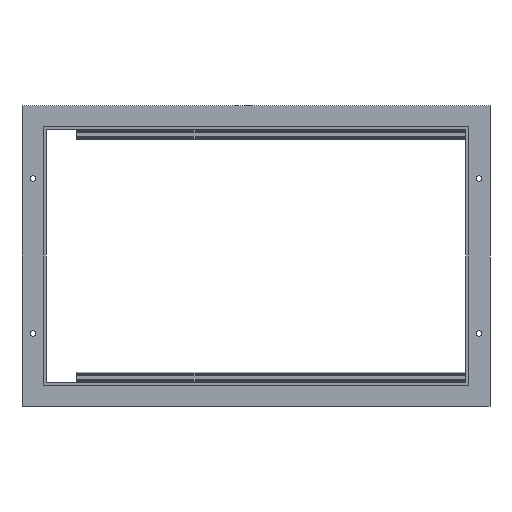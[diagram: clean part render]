
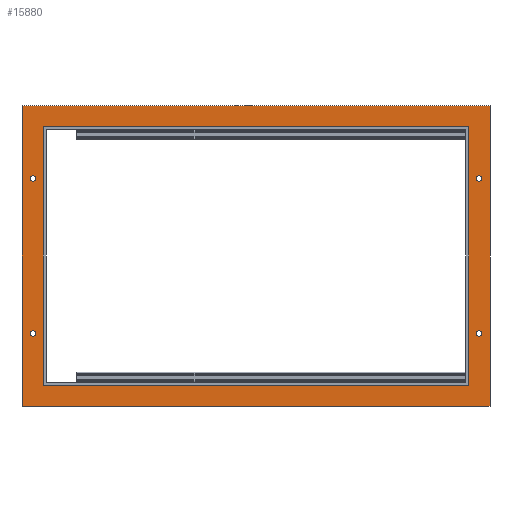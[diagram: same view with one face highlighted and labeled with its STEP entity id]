
A CAD part, front view. The second image highlights one B-rep face of the part: STEP entity #15880.
In plain terms, the highlighted planar face has unit normal (0, -1, 0).
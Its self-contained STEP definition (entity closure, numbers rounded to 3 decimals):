
#111 = VECTOR ( 'NONE', #6372, 1000. ) ;
#283 = EDGE_CURVE ( 'NONE', #23192, #28691, #33240, .T. ) ;
#460 = CARTESIAN_POINT ( 'NONE',  ( 131.158, 341., 453.942 ) ) ;
#687 = CARTESIAN_POINT ( 'NONE',  ( 148.158, 341., 368.942 ) ) ;
#940 = VERTEX_POINT ( 'NONE', #27156 ) ;
#943 = AXIS2_PLACEMENT_3D ( 'NONE', #12843, #31678, #15562 ) ;
#976 = CARTESIAN_POINT ( 'NONE',  ( 883.158, 341., 333.942 ) ) ;
#1787 = CARTESIAN_POINT ( 'NONE',  ( 869.658, 341., 453.942 ) ) ;
#2073 = AXIS2_PLACEMENT_3D ( 'NONE', #15872, #34697, #18579 ) ;
#2101 = DIRECTION ( 'NONE',  ( 0., 0., -1. ) ) ;
#2311 = ORIENTED_EDGE ( 'NONE', *, *, #12689, .T. ) ;
#2703 = EDGE_LOOP ( 'NONE', ( #26471, #31050 ) ) ;
#2706 = CARTESIAN_POINT ( 'NONE',  ( 860.658, 341., 453.942 ) ) ;
#2723 = EDGE_CURVE ( 'NONE', #21518, #940, #18516, .T. ) ;
#2861 = CARTESIAN_POINT ( 'NONE',  ( 148.158, 341., 793.942 ) ) ;
#2922 = CIRCLE ( 'NONE', #24291, 4.5 ) ;
#3026 = ORIENTED_EDGE ( 'NONE', *, *, #8979, .T. ) ;
#3075 = VERTEX_POINT ( 'NONE', #21180 ) ;
#3107 = VECTOR ( 'NONE', #27043, 1000. ) ;
#3177 = DIRECTION ( 'NONE',  ( 0., 0., -1. ) ) ;
#3609 = ORIENTED_EDGE ( 'NONE', *, *, #25058, .F. ) ;
#3890 = ORIENTED_EDGE ( 'NONE', *, *, #16558, .F. ) ;
#4240 = ORIENTED_EDGE ( 'NONE', *, *, #11143, .T. ) ;
#4626 = ORIENTED_EDGE ( 'NONE', *, *, #25682, .F. ) ;
#4665 = VECTOR ( 'NONE', #21620, 1000. ) ;
#4883 = FACE_BOUND ( 'NONE', #18299, .T. ) ;
#5195 = PLANE ( 'NONE',  #17812 ) ;
#5244 = VECTOR ( 'NONE', #5556, 1000. ) ;
#5556 = DIRECTION ( 'NONE',  ( 0., 0., -1. ) ) ;
#5578 = VERTEX_POINT ( 'NONE', #9997 ) ;
#5667 = CARTESIAN_POINT ( 'NONE',  ( 0.021, 341., 828.942 ) ) ;
#5741 = FACE_BOUND ( 'NONE', #9220, .T. ) ;
#6372 = DIRECTION ( 'NONE',  ( 0., 0., 1. ) ) ;
#7115 = ORIENTED_EDGE ( 'NONE', *, *, #23008, .T. ) ;
#7251 = LINE ( 'NONE', #976, #111 ) ;
#7431 = VECTOR ( 'NONE', #8381, 1000. ) ;
#8031 = DIRECTION ( 'NONE',  ( 0., -1., 0. ) ) ;
#8040 = CIRCLE ( 'NONE', #943, 4.5 ) ;
#8381 = DIRECTION ( 'NONE',  ( 1., 0., 0. ) ) ;
#8620 = EDGE_CURVE ( 'NONE', #27589, #28680, #19036, .T. ) ;
#8979 = EDGE_CURVE ( 'NONE', #20185, #10139, #28641, .T. ) ;
#9220 = EDGE_LOOP ( 'NONE', ( #2311, #3026 ) ) ;
#9786 = AXIS2_PLACEMENT_3D ( 'NONE', #27032, #10901, #29710 ) ;
#9803 = EDGE_CURVE ( 'NONE', #26151, #27001, #27730, .T. ) ;
#9997 = CARTESIAN_POINT ( 'NONE',  ( 126.658, 341., 453.942 ) ) ;
#10139 = VERTEX_POINT ( 'NONE', #1787 ) ;
#10901 = DIRECTION ( 'NONE',  ( 0., 1., 0. ) ) ;
#11115 = CARTESIAN_POINT ( 'NONE',  ( 865.158, 341., 708.942 ) ) ;
#11143 = EDGE_CURVE ( 'NONE', #28680, #26881, #34820, .T. ) ;
#11906 = CIRCLE ( 'NONE', #9786, 4.5 ) ;
#11963 = FACE_BOUND ( 'NONE', #16889, .T. ) ;
#12384 = CARTESIAN_POINT ( 'NONE',  ( 865.158, 341., 708.942 ) ) ;
#12495 = DIRECTION ( 'NONE',  ( 0., 1., 0. ) ) ;
#12689 = EDGE_CURVE ( 'NONE', #10139, #20185, #11906, .T. ) ;
#12756 = CARTESIAN_POINT ( 'NONE',  ( 126.658, 341., 708.942 ) ) ;
#12793 = ORIENTED_EDGE ( 'NONE', *, *, #20399, .T. ) ;
#12843 = CARTESIAN_POINT ( 'NONE',  ( 131.158, 341., 708.942 ) ) ;
#12966 = VERTEX_POINT ( 'NONE', #22822 ) ;
#13185 = LINE ( 'NONE', #2861, #5244 ) ;
#13792 = DIRECTION ( 'NONE',  ( 0., 0., -1. ) ) ;
#15104 = DIRECTION ( 'NONE',  ( 0., 0., -1. ) ) ;
#15246 = CARTESIAN_POINT ( 'NONE',  ( 113.158, 341., 333.942 ) ) ;
#15547 = EDGE_LOOP ( 'NONE', ( #3609, #18645, #4240, #7115 ) ) ;
#15562 = DIRECTION ( 'NONE',  ( 0., 0., -1. ) ) ;
#15872 = CARTESIAN_POINT ( 'NONE',  ( 131.158, 341., 708.942 ) ) ;
#15880 = ADVANCED_FACE ( 'NONE', ( #5741, #26319, #19152, #11963, #4883, #32636 ), #5195, .T. ) ;
#16547 = EDGE_LOOP ( 'NONE', ( #12793, #33343 ) ) ;
#16558 = EDGE_CURVE ( 'NONE', #3075, #23192, #32931, .T. ) ;
#16617 = VECTOR ( 'NONE', #28550, 1000. ) ;
#16889 = EDGE_LOOP ( 'NONE', ( #27890, #31102 ) ) ;
#16932 = DIRECTION ( 'NONE',  ( 1., 0., 0. ) ) ;
#16987 = AXIS2_PLACEMENT_3D ( 'NONE', #34276, #18150, #2101 ) ;
#17812 = AXIS2_PLACEMENT_3D ( 'NONE', #24064, #8031, #26815 ) ;
#18098 = EDGE_CURVE ( 'NONE', #5578, #18123, #29024, .T. ) ;
#18123 = VERTEX_POINT ( 'NONE', #31564 ) ;
#18150 = DIRECTION ( 'NONE',  ( 0., 1., 0. ) ) ;
#18299 = EDGE_LOOP ( 'NONE', ( #4626, #30387, #24572, #3890 ) ) ;
#18516 = CIRCLE ( 'NONE', #31630, 4.5 ) ;
#18579 = DIRECTION ( 'NONE',  ( 0., 0., -1. ) ) ;
#18599 = VECTOR ( 'NONE', #16932, 1000. ) ;
#18645 = ORIENTED_EDGE ( 'NONE', *, *, #8620, .T. ) ;
#18902 = CARTESIAN_POINT ( 'NONE',  ( 113.158, 341., 828.942 ) ) ;
#19036 = LINE ( 'NONE', #18902, #3107 ) ;
#19152 = FACE_BOUND ( 'NONE', #16547, .T. ) ;
#19213 = DIRECTION ( 'NONE',  ( 0., 1., 0. ) ) ;
#20185 = VERTEX_POINT ( 'NONE', #2706 ) ;
#20399 = EDGE_CURVE ( 'NONE', #27001, #26151, #8040, .T. ) ;
#20747 = CARTESIAN_POINT ( 'NONE',  ( 869.658, 341., 708.942 ) ) ;
#21180 = CARTESIAN_POINT ( 'NONE',  ( 148.158, 341., 368.942 ) ) ;
#21518 = VERTEX_POINT ( 'NONE', #20747 ) ;
#21620 = DIRECTION ( 'NONE',  ( 0., 0., 1. ) ) ;
#21967 = VERTEX_POINT ( 'NONE', #29327 ) ;
#22527 = CARTESIAN_POINT ( 'NONE',  ( 113.158, 341., 333.942 ) ) ;
#22822 = CARTESIAN_POINT ( 'NONE',  ( 883.158, 341., 828.942 ) ) ;
#22833 = CARTESIAN_POINT ( 'NONE',  ( 113.158, 341., 828.942 ) ) ;
#23008 = EDGE_CURVE ( 'NONE', #26881, #12966, #7251, .T. ) ;
#23192 = VERTEX_POINT ( 'NONE', #28545 ) ;
#23447 = DIRECTION ( 'NONE',  ( 1., 0., 0. ) ) ;
#24064 = CARTESIAN_POINT ( 'NONE',  ( 0.021, 341., 793.942 ) ) ;
#24291 = AXIS2_PLACEMENT_3D ( 'NONE', #460, #19213, #3177 ) ;
#24329 = CARTESIAN_POINT ( 'NONE',  ( 848.158, 341., 368.942 ) ) ;
#24572 = ORIENTED_EDGE ( 'NONE', *, *, #283, .F. ) ;
#24816 = EDGE_CURVE ( 'NONE', #21967, #28691, #30929, .T. ) ;
#25058 = EDGE_CURVE ( 'NONE', #27589, #12966, #28836, .T. ) ;
#25682 = EDGE_CURVE ( 'NONE', #21967, #3075, #13185, .T. ) ;
#26151 = VERTEX_POINT ( 'NONE', #12756 ) ;
#26319 = FACE_BOUND ( 'NONE', #2703, .T. ) ;
#26471 = ORIENTED_EDGE ( 'NONE', *, *, #30521, .T. ) ;
#26623 = EDGE_CURVE ( 'NONE', #940, #21518, #32251, .T. ) ;
#26815 = DIRECTION ( 'NONE',  ( 0., 0., -1. ) ) ;
#26881 = VERTEX_POINT ( 'NONE', #31760 ) ;
#27001 = VERTEX_POINT ( 'NONE', #32346 ) ;
#27032 = CARTESIAN_POINT ( 'NONE',  ( 865.158, 341., 453.942 ) ) ;
#27043 = DIRECTION ( 'NONE',  ( 0., 0., -1. ) ) ;
#27156 = CARTESIAN_POINT ( 'NONE',  ( 860.658, 341., 708.942 ) ) ;
#27589 = VERTEX_POINT ( 'NONE', #22833 ) ;
#27672 = VECTOR ( 'NONE', #23447, 1000. ) ;
#27730 = CIRCLE ( 'NONE', #2073, 4.5 ) ;
#27890 = ORIENTED_EDGE ( 'NONE', *, *, #2723, .T. ) ;
#28545 = CARTESIAN_POINT ( 'NONE',  ( 848.158, 341., 368.942 ) ) ;
#28550 = DIRECTION ( 'NONE',  ( 1., 0., 0. ) ) ;
#28632 = CARTESIAN_POINT ( 'NONE',  ( 865.158, 341., 453.942 ) ) ;
#28641 = CIRCLE ( 'NONE', #31263, 4.5 ) ;
#28680 = VERTEX_POINT ( 'NONE', #22527 ) ;
#28691 = VERTEX_POINT ( 'NONE', #30669 ) ;
#28836 = LINE ( 'NONE', #5667, #7431 ) ;
#29024 = CIRCLE ( 'NONE', #16987, 4.5 ) ;
#29327 = CARTESIAN_POINT ( 'NONE',  ( 148.158, 341., 793.942 ) ) ;
#29710 = DIRECTION ( 'NONE',  ( 0., 0., -1. ) ) ;
#29913 = DIRECTION ( 'NONE',  ( 0., 1., 0. ) ) ;
#30387 = ORIENTED_EDGE ( 'NONE', *, *, #24816, .T. ) ;
#30521 = EDGE_CURVE ( 'NONE', #18123, #5578, #2922, .T. ) ;
#30669 = CARTESIAN_POINT ( 'NONE',  ( 848.158, 341., 793.942 ) ) ;
#30929 = LINE ( 'NONE', #33956, #16617 ) ;
#31050 = ORIENTED_EDGE ( 'NONE', *, *, #18098, .T. ) ;
#31102 = ORIENTED_EDGE ( 'NONE', *, *, #26623, .T. ) ;
#31207 = DIRECTION ( 'NONE',  ( 0., 1., 0. ) ) ;
#31263 = AXIS2_PLACEMENT_3D ( 'NONE', #28632, #12495, #31334 ) ;
#31334 = DIRECTION ( 'NONE',  ( 0., 0., -1. ) ) ;
#31564 = CARTESIAN_POINT ( 'NONE',  ( 135.658, 341., 453.942 ) ) ;
#31630 = AXIS2_PLACEMENT_3D ( 'NONE', #12384, #31207, #15104 ) ;
#31678 = DIRECTION ( 'NONE',  ( 0., 1., 0. ) ) ;
#31760 = CARTESIAN_POINT ( 'NONE',  ( 883.158, 341., 333.942 ) ) ;
#32251 = CIRCLE ( 'NONE', #32253, 4.5 ) ;
#32253 = AXIS2_PLACEMENT_3D ( 'NONE', #11115, #29913, #13792 ) ;
#32346 = CARTESIAN_POINT ( 'NONE',  ( 135.658, 341., 708.942 ) ) ;
#32636 = FACE_OUTER_BOUND ( 'NONE', #15547, .T. ) ;
#32931 = LINE ( 'NONE', #687, #18599 ) ;
#33240 = LINE ( 'NONE', #24329, #4665 ) ;
#33343 = ORIENTED_EDGE ( 'NONE', *, *, #9803, .T. ) ;
#33956 = CARTESIAN_POINT ( 'NONE',  ( 0.021, 341., 793.942 ) ) ;
#34276 = CARTESIAN_POINT ( 'NONE',  ( 131.158, 341., 453.942 ) ) ;
#34697 = DIRECTION ( 'NONE',  ( 0., 1., 0. ) ) ;
#34820 = LINE ( 'NONE', #15246, #27672 ) ;
